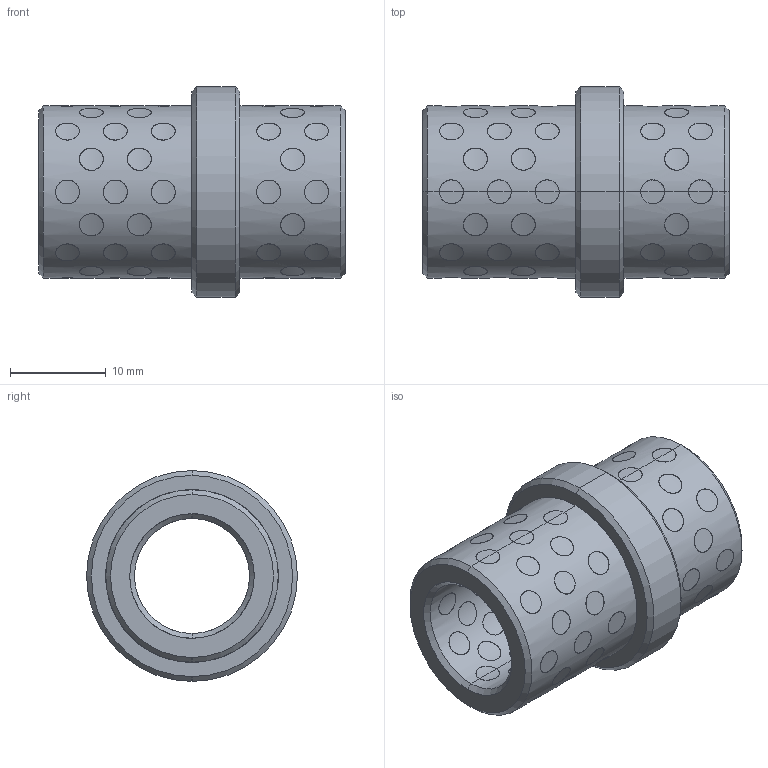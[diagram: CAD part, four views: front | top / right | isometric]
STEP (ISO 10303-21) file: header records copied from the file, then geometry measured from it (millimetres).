
FILE_DESCRIPTION(('CATIA V5 STEP Exchange'),'2;1');
FILE_NAME('C:\Users\Utente\Desktop\3D files G403\G4031232.stp','2020-04-22T08:52:19+00:00',('none'),('none'),'CATIA Version 5 Release 20 GA (IN-10)','CATIA V5 STEP AP203','none');
FILE_SCHEMA(('CONFIG_CONTROL_DESIGN'));
Length unit declared in the file: millimetre
Products named in the file (1): G4031232
Bounding box: 32 x 22 x 22 mm (x, y, z)
Surface area: 6537.8 mm2 (no closed solid volume)
Topology: 0 solids, 428 shells, 428 faces, 1872 edges, 1872 vertices
Faces by surface type: cylinder 412, revolution 12, plane 4
Entity records: 32989 total; most frequent: CARTESIAN_POINT 20020, ORIENTED_EDGE 1872, EDGE_CURVE 1872, VERTEX_POINT 1872, DIRECTION 1523, B_SPLINE_CURVE_WITH_KNOTS 1205, VECTOR 632, LINE 632
